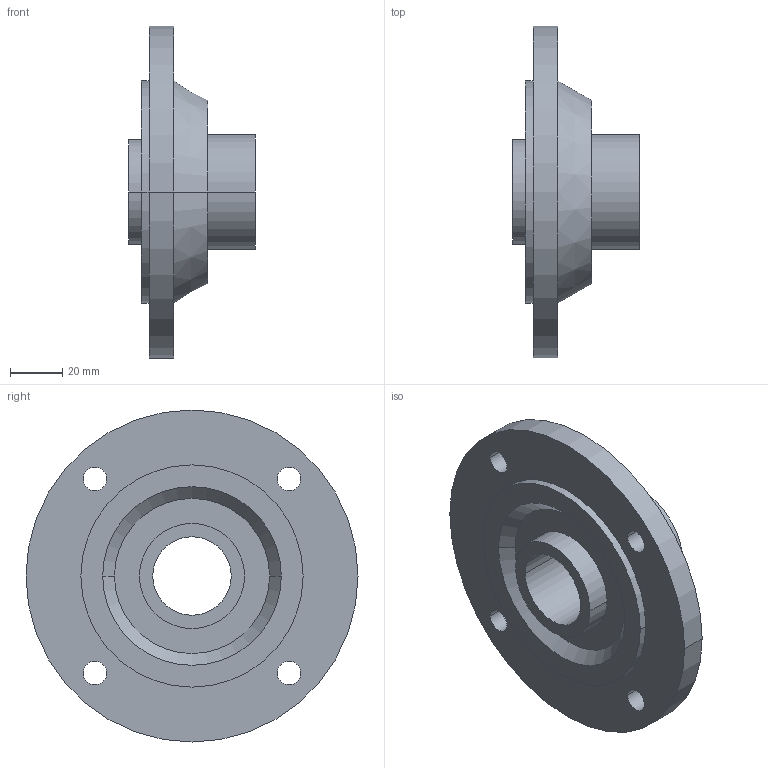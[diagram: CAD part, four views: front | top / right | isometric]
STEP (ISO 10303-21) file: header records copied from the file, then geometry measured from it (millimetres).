
FILE_DESCRIPTION(('SolidDesigner STEP Export'),'2;1');
FILE_NAME('Flanschlager_RFE_30.stp','2002-07-16T11:53:45',(''),(''),'SolidDesigner STEP processor Version: 9.0 (March 2001)for AP214(CD)(Solid Model)','CoCreate SolidDesigner: 11.00 12-Dec-2001(C) CoCreate Software GmbH','');
FILE_SCHEMA(('AUTOMOTIVE_DESIGN_CC2 {1 2 10303 214 -1 1 5 1}'));
Length unit declared in the file: millimetre
Products named in the file (1): Flanschlager_RFE_30
Bounding box: 48.4 x 127 x 127 mm (x, y, z)
Volume: 183941.3 mm3; surface area: 40467.6 mm2
Topology: 1 solids, 1 shells, 32 faces, 72 edges, 48 vertices
Faces by surface type: cylinder 20, plane 8, cone 4
Entity records: 786 total; most frequent: ORIENTED_EDGE 144, CARTESIAN_POINT 117, DIRECTION 114, EDGE_CURVE 72, VERTEX_POINT 48, EDGE_LOOP 48, AXIS2_PLACEMENT_3D 45, FACE_OUTER_BOUND 32
